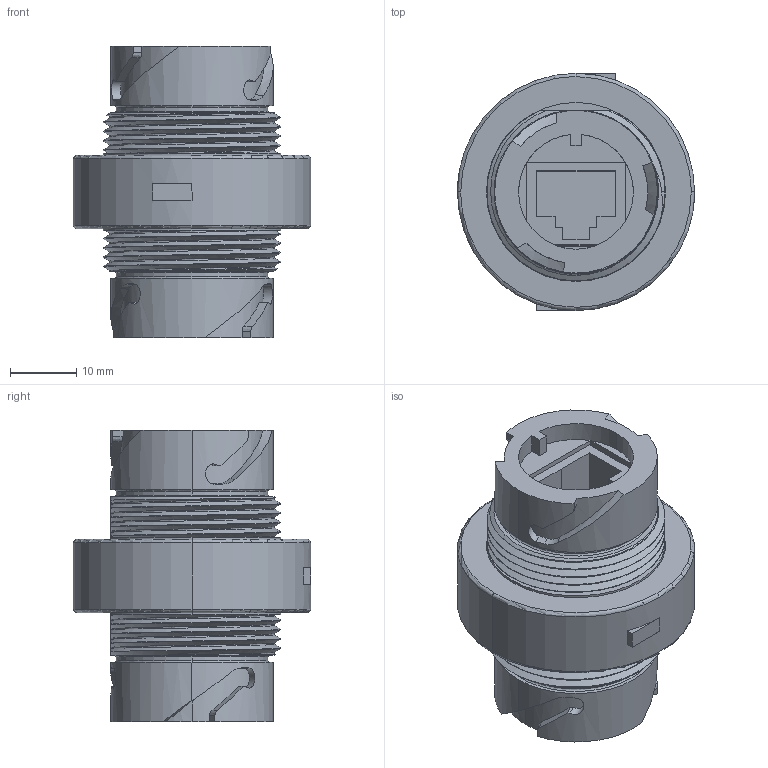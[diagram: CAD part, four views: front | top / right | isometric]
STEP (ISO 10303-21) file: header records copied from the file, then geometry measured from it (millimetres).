
FILE_DESCRIPTION (( 'STEP AP203' ), '1' );
FILE_NAME ('RJ45SF-RJ45SF-IP67.step', '2015-10-29T14:43:06', ( 'Turck User' ), ( '' ), 'SwSTEP 2.0', 'SolidWorks 2014', '' );
FILE_SCHEMA (( 'CONFIG_CONTROL_DESIGN' ));
Length unit declared in the file: millimetre
Products named in the file (2): RJ45SF-RJ45SF-IP67
Bounding box: 35.81 x 35.81 x 44.04 mm (x, y, z)
Volume: 22727.7 mm3; surface area: 11419.7 mm2
Topology: 1 solids, 1 shells, 282 faces, 778 edges, 512 vertices
Faces by surface type: plane 118, bspline 82, cylinder 70, cone 8, torus 4
Entity records: 21978 total; most frequent: CARTESIAN_POINT 15390, ORIENTED_EDGE 1556, DIRECTION 1065, EDGE_CURVE 778, VERTEX_POINT 512, LINE 355, VECTOR 355, AXIS2_PLACEMENT_3D 355
